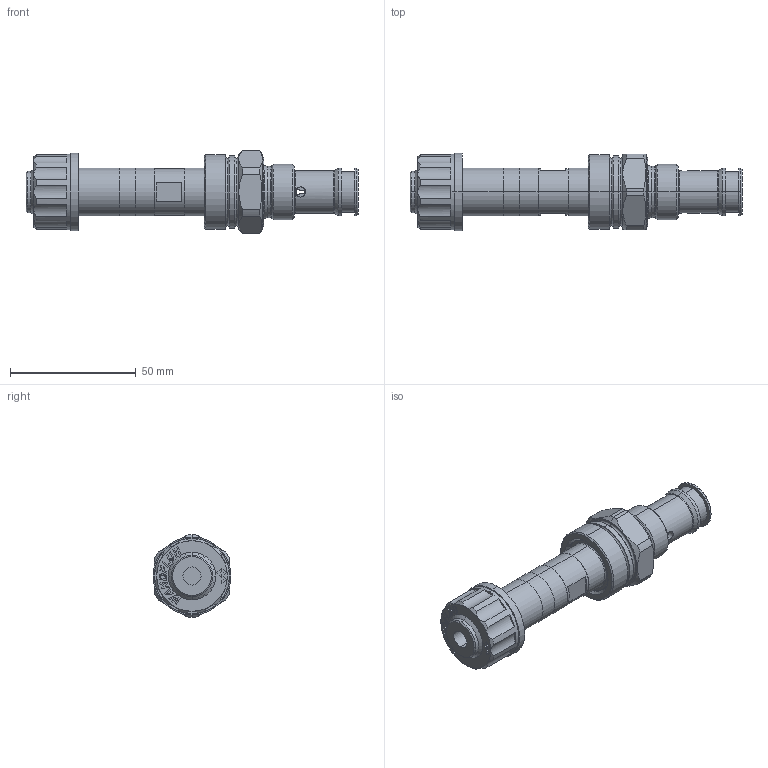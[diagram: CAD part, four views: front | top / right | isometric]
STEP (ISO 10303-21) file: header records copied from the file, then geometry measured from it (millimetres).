
FILE_DESCRIPTION (( 'STEP AP214' ), '1' );
FILE_NAME ('DOPPM22.STEP', '2014-03-19T08:29:51', ( '' ), ( '' ), 'SwSTEP 2.0', 'SolidWorks 2012', '' );
FILE_SCHEMA (( 'AUTOMOTIVE_DESIGN' ));
Length unit declared in the file: millimetre
Products named in the file (1): DOPPM22
Bounding box: 132 x 31 x 33 mm (x, y, z)
Volume: 50502.5 mm3; surface area: 19066.5 mm2
Topology: 4 solids, 6 shells, 389 faces, 903 edges, 563 vertices
Faces by surface type: plane 165, cylinder 102, cone 62, torus 44, bspline 16
Entity records: 16586 total; most frequent: CARTESIAN_POINT 3268, DIRECTION 1930, ORIENTED_EDGE 1806, EDGE_CURVE 903, AXIS2_PLACEMENT_3D 727, VERTEX_POINT 563, LINE 476, VECTOR 476
